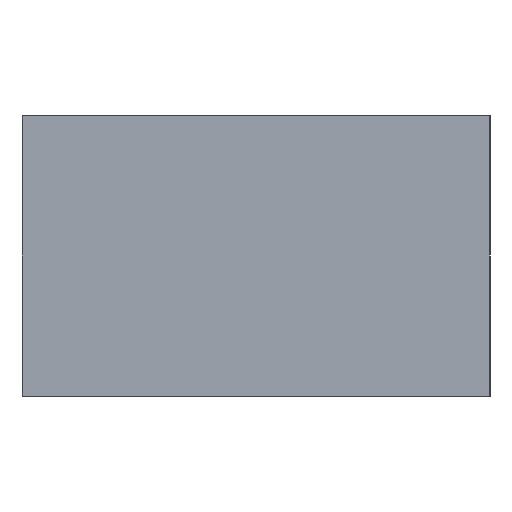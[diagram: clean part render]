
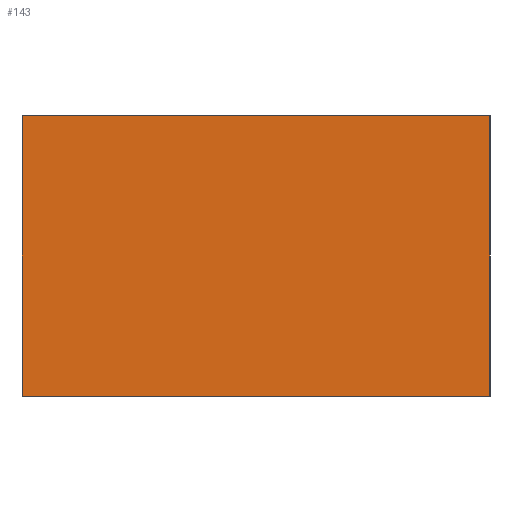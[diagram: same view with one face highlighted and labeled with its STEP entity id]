
A CAD part, left-side view. The second image highlights one B-rep face of the part: STEP entity #143.
In plain terms, the highlighted planar face has unit normal (-1, 0, 0).
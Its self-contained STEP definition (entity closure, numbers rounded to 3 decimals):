
#143=ADVANCED_FACE('',(#340),#342,.T.);
#340=FACE_BOUND('',#341,.T.);
#341=EDGE_LOOP('',(#467,#468,#469,#470));
#342=PLANE('',#343);
#343=AXIS2_PLACEMENT_3D('',#344,#345,#346);
#344=CARTESIAN_POINT('',(-576.,0.,0.));
#345=DIRECTION('',(-1.,0.,0.));
#346=DIRECTION('',(0.,-1.,0.));
#467=ORIENTED_EDGE('',*,*,#506,.T.);
#468=ORIENTED_EDGE('',*,*,#490,.T.);
#469=ORIENTED_EDGE('',*,*,#512,.F.);
#470=ORIENTED_EDGE('',*,*,#497,.F.);
#490=EDGE_CURVE('',#521,#526,#528,.T.);
#497=EDGE_CURVE('',#540,#542,#543,.T.);
#506=EDGE_CURVE('',#540,#521,#558,.T.);
#512=EDGE_CURVE('',#542,#526,#568,.T.);
#521=VERTEX_POINT('',#585);
#526=VERTEX_POINT('',#594);
#528=LINE('',#598,#599);
#540=VERTEX_POINT('',#627);
#542=VERTEX_POINT('',#631);
#543=LINE('',#632,#633);
#558=LINE('',#670,#671);
#568=LINE('',#696,#697);
#585=CARTESIAN_POINT('',(-576.,-20.,0.));
#594=CARTESIAN_POINT('',(-576.,-20.,12.));
#598=CARTESIAN_POINT('',(-576.,-20.,0.));
#599=VECTOR('',#600,1.);
#600=DIRECTION('',(0.,0.,1.));
#627=CARTESIAN_POINT('',(-576.,0.,0.));
#631=CARTESIAN_POINT('',(-576.,0.,12.));
#632=CARTESIAN_POINT('',(-576.,0.,0.));
#633=VECTOR('',#634,1.);
#634=DIRECTION('',(0.,0.,1.));
#670=CARTESIAN_POINT('',(-576.,0.,0.));
#671=VECTOR('',#672,1.);
#672=DIRECTION('',(0.,-1.,0.));
#696=CARTESIAN_POINT('',(-576.,0.,12.));
#697=VECTOR('',#698,1.);
#698=DIRECTION('',(0.,-1.,0.));
